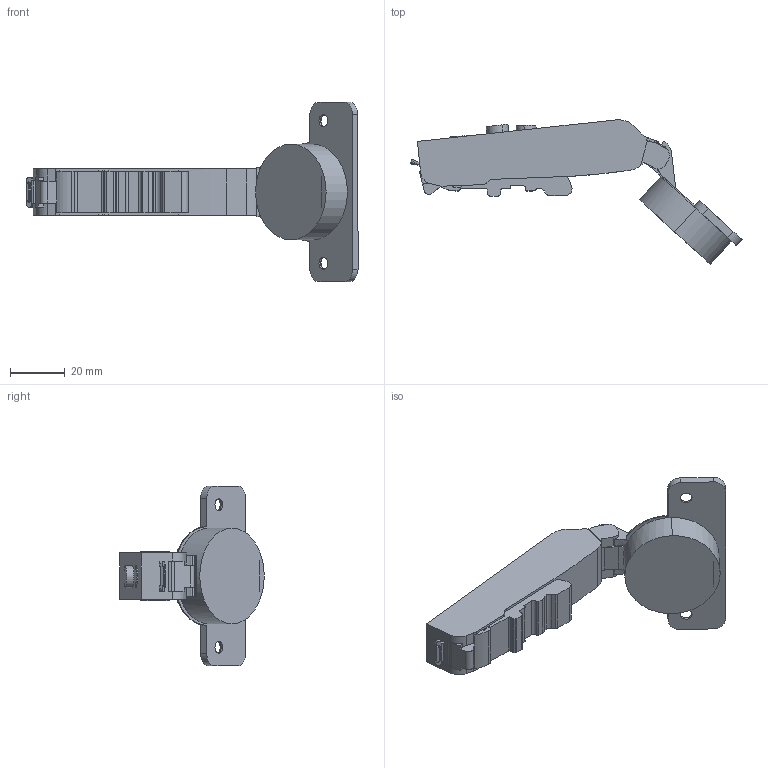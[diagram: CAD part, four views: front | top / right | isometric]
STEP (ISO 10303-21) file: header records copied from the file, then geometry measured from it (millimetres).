
FILE_DESCRIPTION (( 'STEP AP203' ), '1' );
FILE_NAME ('C81W876FAB DTC 3D OPEN.STEP', '2024-07-22T01:26:01', ( '微软用户' ), ( '微软中国' ), 'SwSTEP 2.0', 'SolidWorks 2021', '' );
FILE_SCHEMA (( 'CONFIG_CONTROL_DESIGN' ));
Length unit declared in the file: millimetre
Products named in the file (1): C81W876FAB DTC 3D OPEN
Bounding box: 121.01 x 52.66 x 65.6 mm (x, y, z)
Volume: 44657.4 mm3; surface area: 13264 mm2
Topology: 1 solids, 2 shells, 292 faces, 823 edges, 543 vertices
Faces by surface type: cylinder 133, plane 124, torus 23, cone 6, bspline 6
Entity records: 9721 total; most frequent: CARTESIAN_POINT 1978, ORIENTED_EDGE 1646, DIRECTION 1616, EDGE_CURVE 823, AXIS2_PLACEMENT_3D 577, VERTEX_POINT 543, LINE 462, VECTOR 462
